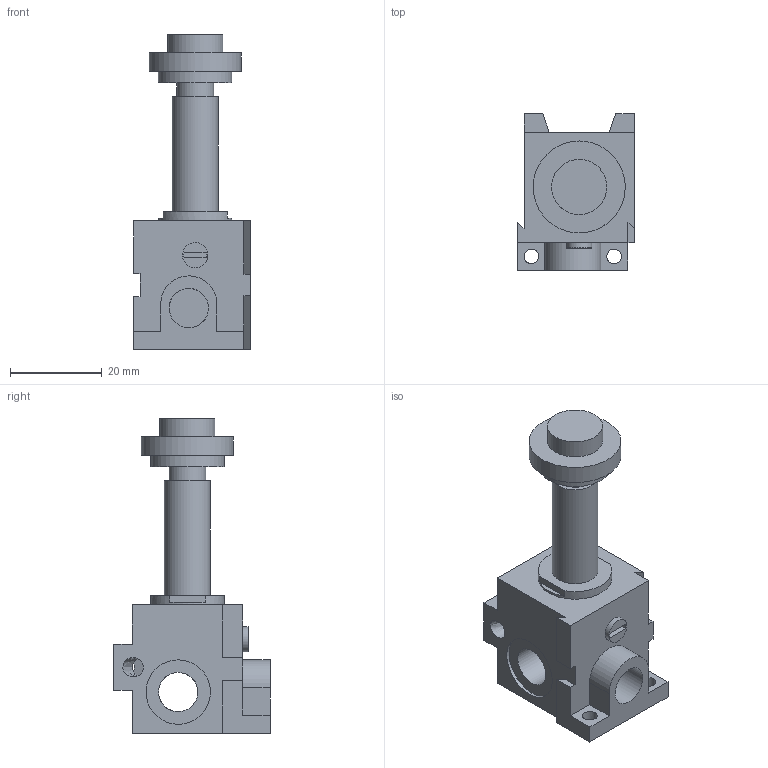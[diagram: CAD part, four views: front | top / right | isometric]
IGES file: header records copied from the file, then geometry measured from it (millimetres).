
Global section: file name: 305_M1; native system: Autodesk Inventor 2014; preprocessor: unknown; organization: Pneumax S.p.A.; date: 20161004.153111; units: millimetre
Bounding box: 25.4 x 34 x 68.5 mm (x, y, z)
Volume: 18401.2 mm3; surface area: 8062.5 mm2
Topology: 1 solids, 1 shells, 75 faces, 206 edges, 144 vertices
Faces by surface type: bspline 75
